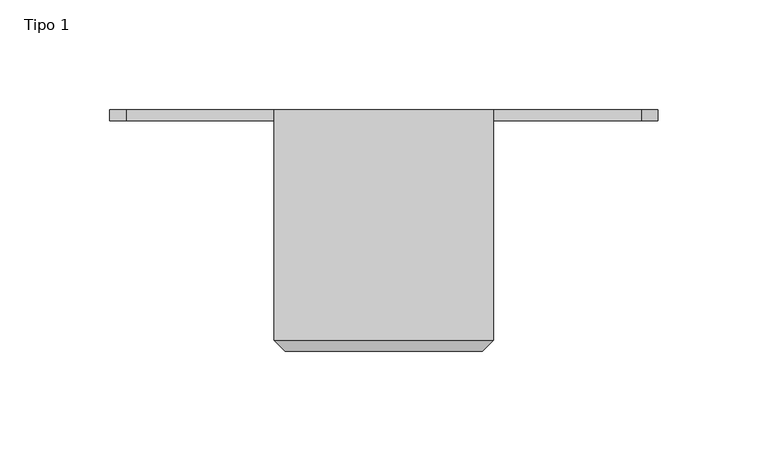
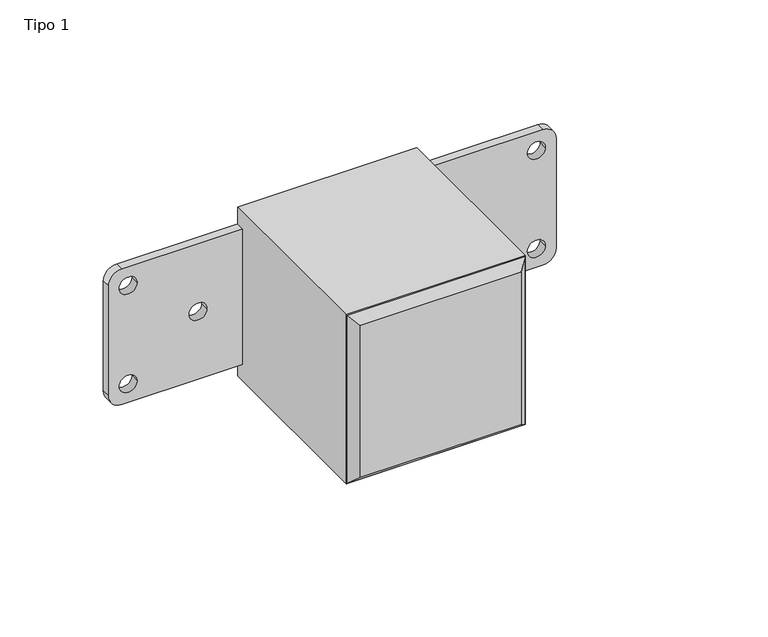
"""IFC4 building model written with IfcOpenShell, lengths in millimetres: proxy geometry, Ercole lineare orizzontale : Tipo 1."""

from ifc_helpers import new_model, si_unit, point, frame, frame_2d, origin, place, context, project, spatial, polyline, circle_curve, trimmed, segment, composite_curve, outline, extrude, faceted_brep, source, transform, mapped, element, save


def tipo_1_0b2f622d(model_context):
    return source(origin(), model_context, "Body", "SolidModel", [
        extrude(outline(polyline([(-175.0, 629.7029033), (-175.0, 729.7029033), (-70.0, 729.7029033), (-70.0, 719.7028762), (-75.0, 719.7028762), (-75.0, 639.7029304), (-70.0, 639.7029304), (-70.0, 629.7029033), (-175.0, 629.7029033)])), frame((75.0, 0.0, 0.0), z_axis=(1.0, 0.0, 0.0), x_axis=(0.0, 1.0, 0.0)), (0.0, 0.0, 1.0), 100.0),
        faceted_brep([(80.0, -180.0, 724.7029033), (80.0, -180.0, 634.7029033), (170.0, -180.0, 634.7029033), (170.0, -180.0, 724.7029033), (75.0, -175.0, 729.7029033), (175.0, -175.0, 729.7029033), (175.0, -175.0, 629.7029033), (75.0, -175.0, 629.7029033)], [[[0, 1, 2, 3]], [[4, 5, 6, 7]], [[5, 4, 0, 3]], [[6, 5, 3, 2]], [[7, 6, 2, 1]], [[4, 7, 1, 0]]]),
        extrude(outline(composite_curve([segment(polyline([(647.2029304, 249.9997852), (712.2028762, 249.9997852)]), True, "CONTINUOUS"), segment(trimmed(circle_curve(frame_2d((712.2028762, 242.4997852)), 7.5), [point((712.2028762, 249.9997852))], [point((719.7028762, 242.4997852))], False, "CARTESIAN"), True, "CONTINUOUS"), segment(polyline([(719.7028762, 242.4997852), (719.7028762, 7.5002148)]), True, "CONTINUOUS"), segment(trimmed(circle_curve(frame_2d((712.2028762, 7.5002148)), 7.5), [point((719.7028762, 7.5002148))], [point((712.2028762, 0.0002148))], False, "CARTESIAN"), True, "CONTINUOUS"), segment(polyline([(712.2028762, 0.0002148), (647.2029304, 0.0002148)]), True, "CONTINUOUS"), segment(trimmed(circle_curve(frame_2d((647.2029304, 7.5002148)), 7.5), [point((647.2029304, 0.0002148))], [point((639.7029304, 7.5002148))], False, "CARTESIAN"), True, "CONTINUOUS"), segment(polyline([(639.7029304, 7.5002148), (639.7029304, 242.4997852)]), True, "CONTINUOUS"), segment(trimmed(circle_curve(frame_2d((647.2029304, 242.4997852)), 7.5), [point((639.7029304, 242.4997852))], [point((647.2029304, 249.9997852))], False, "CARTESIAN"), True, "CONTINUOUS")], self_intersect=False), holes=[composite_curve([segment(trimmed(circle_curve(frame_2d((650.7027514, 238.9954944)), 5.0), [point((650.7027514, 243.9954944))], [point((650.7027514, 233.9954944))], True, "CARTESIAN"), True, "CONTINUOUS"), segment(trimmed(circle_curve(frame_2d((650.7027514, 238.9954944)), 5.0), [point((650.7027514, 233.9954944))], [point((650.7027514, 243.9954944))], True, "CARTESIAN"), True, "CONTINUOUS")], self_intersect=False), composite_curve([segment(trimmed(circle_curve(frame_2d((708.7030181, 238.9999145)), 5.0), [point((708.7030181, 243.9999145))], [point((708.7030181, 233.9999145))], True, "CARTESIAN"), True, "CONTINUOUS"), segment(trimmed(circle_curve(frame_2d((708.7030181, 238.9999145)), 5.0), [point((708.7030181, 233.9999145))], [point((708.7030181, 243.9999145))], True, "CARTESIAN"), True, "CONTINUOUS")], self_intersect=False), composite_curve([segment(trimmed(circle_curve(frame_2d((679.7029033, 199.9997852)), 5.0), [point((679.7029033, 194.9997852))], [point((679.7029033, 204.9997852))], True, "CARTESIAN"), True, "CONTINUOUS"), segment(trimmed(circle_curve(frame_2d((679.7029033, 199.9997852)), 5.0), [point((679.7029033, 204.9997852))], [point((679.7029033, 194.9997852))], True, "CARTESIAN"), True, "CONTINUOUS")], self_intersect=False), composite_curve([segment(trimmed(circle_curve(frame_2d((701.7029193, 147.0)), 3.5), [point((701.7029193, 143.5))], [point((701.7029193, 150.5))], True, "CARTESIAN"), True, "CONTINUOUS"), segment(trimmed(circle_curve(frame_2d((701.7029193, 147.0)), 3.5), [point((701.7029193, 150.5))], [point((701.7029193, 143.5))], True, "CARTESIAN"), True, "CONTINUOUS")], self_intersect=False), composite_curve([segment(trimmed(circle_curve(frame_2d((657.7032048, 146.9999521)), 3.5), [point((657.7032048, 143.4999521))], [point((657.7032048, 150.4999521))], True, "CARTESIAN"), True, "CONTINUOUS"), segment(trimmed(circle_curve(frame_2d((657.7032048, 146.9999521)), 3.5), [point((657.7032048, 150.4999521))], [point((657.7032048, 143.4999521))], True, "CARTESIAN"), True, "CONTINUOUS")], self_intersect=False), composite_curve([segment(trimmed(circle_curve(frame_2d((701.7029193, 103.0)), 3.5), [point((701.7029193, 106.5))], [point((701.7029193, 99.5))], True, "CARTESIAN"), True, "CONTINUOUS"), segment(trimmed(circle_curve(frame_2d((701.7029193, 103.0)), 3.5), [point((701.7029193, 99.5))], [point((701.7029193, 106.5))], True, "CARTESIAN"), True, "CONTINUOUS")], self_intersect=False), composite_curve([segment(trimmed(circle_curve(frame_2d((657.7032048, 102.9999521)), 3.5), [point((657.7032048, 99.4999521))], [point((657.7032048, 106.4999521))], True, "CARTESIAN"), True, "CONTINUOUS"), segment(trimmed(circle_curve(frame_2d((657.7032048, 102.9999521)), 3.5), [point((657.7032048, 106.4999521))], [point((657.7032048, 99.4999521))], True, "CARTESIAN"), True, "CONTINUOUS")], self_intersect=False), composite_curve([segment(trimmed(circle_curve(frame_2d((679.7029033, 50.0002148)), 5.0), [point((679.7029033, 55.0002148))], [point((679.7029033, 45.0002148))], True, "CARTESIAN"), True, "CONTINUOUS"), segment(trimmed(circle_curve(frame_2d((679.7029033, 50.0002148)), 5.0), [point((679.7029033, 45.0002148))], [point((679.7029033, 55.0002148))], True, "CARTESIAN"), True, "CONTINUOUS")], self_intersect=False), composite_curve([segment(trimmed(circle_curve(frame_2d((708.7030181, 11.0000855)), 5.0), [point((708.7030181, 16.0000855))], [point((708.7030181, 6.0000855))], True, "CARTESIAN"), True, "CONTINUOUS"), segment(trimmed(circle_curve(frame_2d((708.7030181, 11.0000855)), 5.0), [point((708.7030181, 6.0000855))], [point((708.7030181, 16.0000855))], True, "CARTESIAN"), True, "CONTINUOUS")], self_intersect=False), composite_curve([segment(trimmed(circle_curve(frame_2d((650.7027514, 11.0045056)), 5.0), [point((650.7027514, 6.0045056))], [point((650.7027514, 16.0045056))], True, "CARTESIAN"), True, "CONTINUOUS"), segment(trimmed(circle_curve(frame_2d((650.7027514, 11.0045056)), 5.0), [point((650.7027514, 16.0045056))], [point((650.7027514, 6.0045056))], True, "CARTESIAN"), True, "CONTINUOUS")], self_intersect=False)]), frame((0.0, -75.0, 0.0), z_axis=(0.0, 1.0, 0.0), x_axis=(0.0, 0.0, 1.0)), (0.0, 0.0, 1.0), 5.0),
    ])


if __name__ == "__main__":
    model = new_model("IFC4")
    model_context = context("Model", 3, world=origin())
    ifc_project = project(units=[si_unit("LENGTHUNIT", "METRE", prefix="MILLI")], contexts=[model_context])
    site = spatial("IfcSite", under=ifc_project)
    building = spatial("IfcBuilding", under=site)
    placement = place(None, origin())
    tipo_1_shape = tipo_1_0b2f622d(model_context)
    element("IfcBuildingElementProxy", 1, Name="Ercole lineare orizzontale : Tipo 1", ObjectType="Ercole lineare orizzontale : Tipo 1", at=placement, inside=building, context=model_context, shape_type="MappedRepresentation", body=[
        mapped(tipo_1_shape, transform((0.0, 0.0, 0.0), x_axis=(1.0, 0.0, 0.0), y_axis=(0.0, 1.0, 0.0), z_axis=(0.0, 0.0, 1.0))),
    ])
    save(model, "model.ifc")
